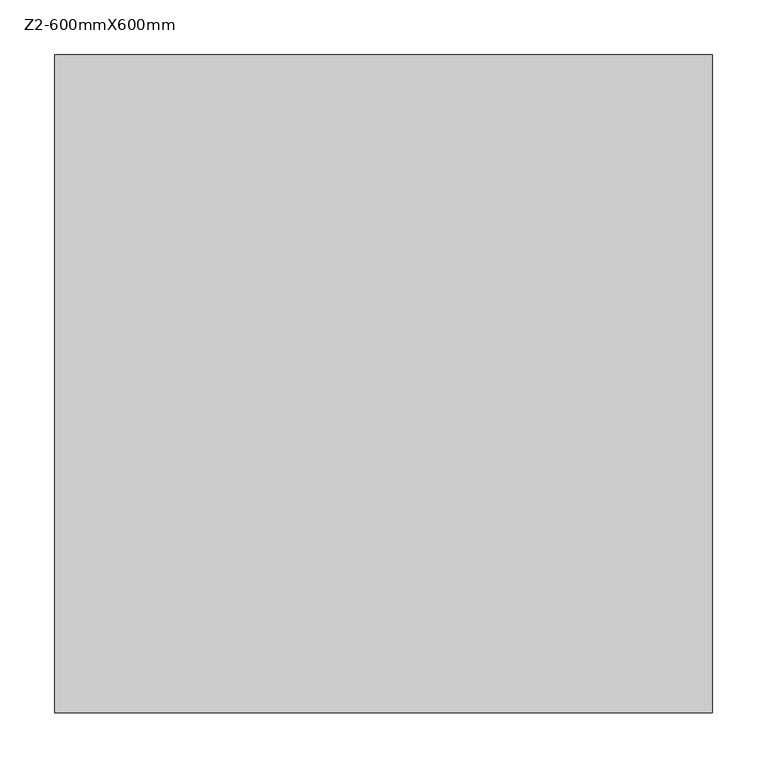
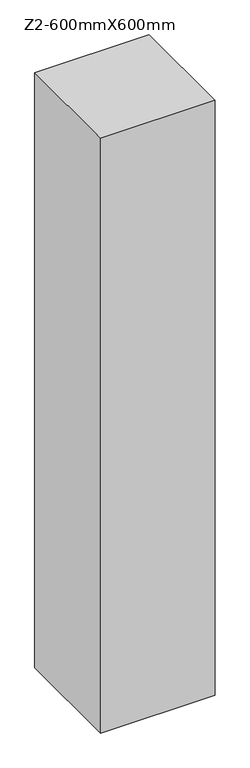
"""IFC4 building model written with IfcOpenShell, lengths in millimetres: column geometry, 混凝土 - 矩形 - 柱 : Z2-600mmX600mm."""

from ifc_helpers import new_model, si_unit, frame, origin, place, context, project, spatial, polyline, outline, extrude, source, transform, mapped, element, save


def z2_600mmx600mm_ff006ee7(model_context):
    return source(origin(), model_context, "Body", "SweptSolid", [
        extrude(outline(polyline([(300.0, 300.0), (300.0, -300.0), (-300.0, -300.0), (-300.0, 300.0), (300.0, 300.0)])), frame((0.0, 0.0, 3900.0), z_axis=(0.0, 0.0, 1.0), x_axis=(1.0, 0.0, 0.0)), (0.0, 0.0, 1.0), 3300.0),
    ])


if __name__ == "__main__":
    model = new_model("IFC4")
    model_context = context("Model", 3, world=origin())
    ifc_project = project(units=[si_unit("LENGTHUNIT", "METRE", prefix="MILLI")], contexts=[model_context])
    site = spatial("IfcSite", under=ifc_project)
    building = spatial("IfcBuilding", under=site)
    placement = place(None, origin())
    z2_600mmx600mm_shape = z2_600mmx600mm_ff006ee7(model_context)
    element("IfcColumn", 1, ObjectType="混凝土 - 矩形 - 柱 : Z2-600mmX600mm", at=placement, inside=building, context=model_context, shape_type="MappedRepresentation", body=[
        mapped(z2_600mmx600mm_shape, transform((0.0, 0.0, 0.0), x_axis=(1.0, 0.0, 0.0), y_axis=(0.0, 1.0, 0.0), z_axis=(0.0, 0.0, 1.0))),
    ])
    save(model, "model.ifc")
